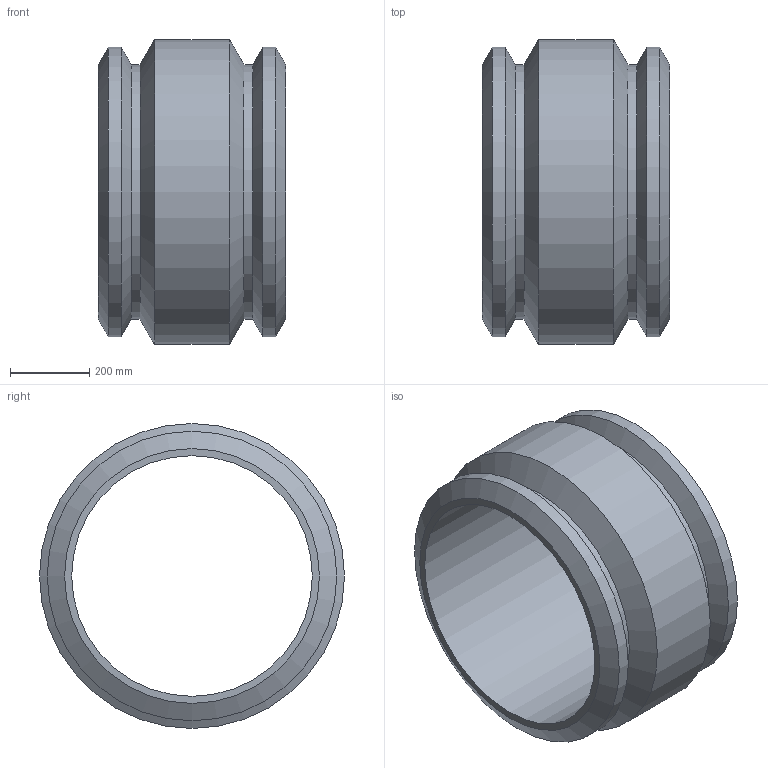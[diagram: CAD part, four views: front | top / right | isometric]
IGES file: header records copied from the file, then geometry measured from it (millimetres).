
Global section: file name: 5901D003240.ipt; native system: Autodesk Inventor 2019; preprocessor: unknown; author: KIM; date: 20210830.100921; units: inch
Bounding box: 471.93 x 768.86 x 768.86 mm (x, y, z)
Volume: 58580458.1 mm3; surface area: 2422837.6 mm2
Topology: 1 solids, 1 shells, 14 faces, 28 edges, 16 vertices
Faces by surface type: cone 6, cylinder 5, plane 2, revolution 1
Full cylindrical faces by diameter (mm): 642.396 x2, 729.996 x2, 768.858 x1
